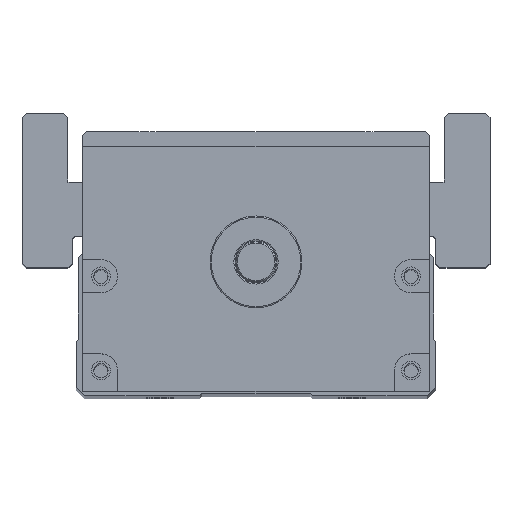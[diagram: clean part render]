
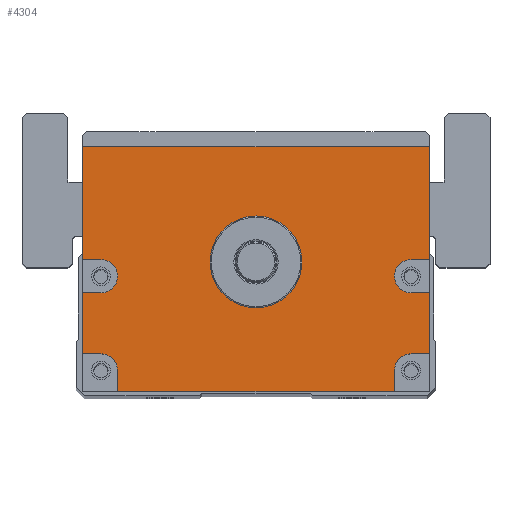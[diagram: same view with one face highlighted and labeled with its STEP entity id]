
A CAD part, top view. The second image highlights one B-rep face of the part: STEP entity #4304.
In plain terms, the highlighted planar face has unit normal (0, 0, 1).
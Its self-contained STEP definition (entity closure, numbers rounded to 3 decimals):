
#4304=ADVANCED_FACE('',(#6755,#6756),#4781,.T.);
#4781=PLANE('',#14732);
#5434=LINE('',#21305,#6228);
#5436=LINE('',#21313,#6230);
#5437=LINE('',#21316,#6231);
#5438=LINE('',#21318,#6232);
#5439=LINE('',#21322,#6233);
#5440=LINE('',#21324,#6234);
#5441=LINE('',#21325,#6235);
#5442=LINE('',#21327,#6236);
#5443=LINE('',#21331,#6237);
#5444=LINE('',#21333,#6238);
#5445=LINE('',#21335,#6239);
#5446=LINE('',#21339,#6240);
#5447=LINE('',#21341,#6241);
#5448=LINE('',#21343,#6242);
#6228=VECTOR('',#17086,1.);
#6230=VECTOR('',#17094,1.);
#6231=VECTOR('',#17095,1.);
#6232=VECTOR('',#17096,1.);
#6233=VECTOR('',#17099,1.);
#6234=VECTOR('',#17100,1.);
#6235=VECTOR('',#17101,1.);
#6236=VECTOR('',#17102,1.);
#6237=VECTOR('',#17105,1.);
#6238=VECTOR('',#17106,1.);
#6239=VECTOR('',#17107,1.);
#6240=VECTOR('',#17110,1.);
#6241=VECTOR('',#17111,1.);
#6242=VECTOR('',#17112,1.);
#6755=FACE_BOUND('',#7573,.T.);
#6756=FACE_BOUND('',#7574,.T.);
#7573=EDGE_LOOP('',(#9908,#9909,#9910,#9911,#9912,#9913,#9914,#9915,#9916,
#9917,#9918,#9919,#9920,#9921,#9922,#9923,#9924,#9925));
#7574=EDGE_LOOP('',(#9926));
#9908=ORIENTED_EDGE('',*,*,#13053,.F.);
#9909=ORIENTED_EDGE('',*,*,#13054,.T.);
#9910=ORIENTED_EDGE('',*,*,#13055,.F.);
#9911=ORIENTED_EDGE('',*,*,#13056,.F.);
#9912=ORIENTED_EDGE('',*,*,#13057,.F.);
#9913=ORIENTED_EDGE('',*,*,#13058,.T.);
#9914=ORIENTED_EDGE('',*,*,#13049,.T.);
#9915=ORIENTED_EDGE('',*,*,#13059,.T.);
#9916=ORIENTED_EDGE('',*,*,#13060,.F.);
#9917=ORIENTED_EDGE('',*,*,#13061,.F.);
#9918=ORIENTED_EDGE('',*,*,#13062,.F.);
#9919=ORIENTED_EDGE('',*,*,#13063,.T.);
#9920=ORIENTED_EDGE('',*,*,#13064,.F.);
#9921=ORIENTED_EDGE('',*,*,#13065,.F.);
#9922=ORIENTED_EDGE('',*,*,#13066,.F.);
#9923=ORIENTED_EDGE('',*,*,#13067,.T.);
#9924=ORIENTED_EDGE('',*,*,#13068,.F.);
#9925=ORIENTED_EDGE('',*,*,#13069,.F.);
#9926=ORIENTED_EDGE('',*,*,#13035,.T.);
#11659=VERTEX_POINT('',#21276);
#11672=VERTEX_POINT('',#21304);
#11673=VERTEX_POINT('',#21306);
#11676=VERTEX_POINT('',#21314);
#11677=VERTEX_POINT('',#21315);
#11678=VERTEX_POINT('',#21317);
#11679=VERTEX_POINT('',#21319);
#11680=VERTEX_POINT('',#21321);
#11681=VERTEX_POINT('',#21323);
#11682=VERTEX_POINT('',#21326);
#11683=VERTEX_POINT('',#21328);
#11684=VERTEX_POINT('',#21330);
#11685=VERTEX_POINT('',#21332);
#11686=VERTEX_POINT('',#21334);
#11687=VERTEX_POINT('',#21336);
#11688=VERTEX_POINT('',#21338);
#11689=VERTEX_POINT('',#21340);
#11690=VERTEX_POINT('',#21342);
#11691=VERTEX_POINT('',#21344);
#13035=EDGE_CURVE('',#11659,#11659,#13845,.T.);
#13049=EDGE_CURVE('',#11673,#11672,#5434,.T.);
#13053=EDGE_CURVE('',#11676,#11677,#5436,.T.);
#13054=EDGE_CURVE('',#11676,#11678,#5437,.T.);
#13055=EDGE_CURVE('',#11679,#11678,#5438,.T.);
#13056=EDGE_CURVE('',#11680,#11679,#13856,.T.);
#13057=EDGE_CURVE('',#11681,#11680,#5439,.T.);
#13058=EDGE_CURVE('',#11681,#11673,#5440,.T.);
#13059=EDGE_CURVE('',#11672,#11682,#5441,.T.);
#13060=EDGE_CURVE('',#11683,#11682,#5442,.T.);
#13061=EDGE_CURVE('',#11684,#11683,#13857,.T.);
#13062=EDGE_CURVE('',#11685,#11684,#5443,.T.);
#13063=EDGE_CURVE('',#11685,#11686,#5444,.T.);
#13064=EDGE_CURVE('',#11687,#11686,#5445,.T.);
#13065=EDGE_CURVE('',#11688,#11687,#13858,.T.);
#13066=EDGE_CURVE('',#11689,#11688,#5446,.T.);
#13067=EDGE_CURVE('',#11689,#11690,#5447,.T.);
#13068=EDGE_CURVE('',#11691,#11690,#5448,.T.);
#13069=EDGE_CURVE('',#11677,#11691,#13859,.T.);
#13845=CIRCLE('',#14714,11.);
#13856=CIRCLE('',#14728,4.);
#13857=CIRCLE('',#14729,4.);
#13858=CIRCLE('',#14730,4.);
#13859=CIRCLE('',#14731,4.);
#14714=AXIS2_PLACEMENT_3D('',#21275,#17059,#17060);
#14728=AXIS2_PLACEMENT_3D('',#21320,#17097,#17098);
#14729=AXIS2_PLACEMENT_3D('',#21329,#17103,#17104);
#14730=AXIS2_PLACEMENT_3D('',#21337,#17108,#17109);
#14731=AXIS2_PLACEMENT_3D('',#21345,#17113,#17114);
#14732=AXIS2_PLACEMENT_3D('',#21346,#17115,#17116);
#17059=DIRECTION('',(0.,0.,-1.));
#17060=DIRECTION('',(1.,0.,0.));
#17086=DIRECTION('',(-1.,0.,0.));
#17094=DIRECTION('',(-1.,0.,0.));
#17095=DIRECTION('',(0.,1.,0.));
#17096=DIRECTION('',(1.,0.,0.));
#17097=DIRECTION('',(0.,0.,1.));
#17098=DIRECTION('',(1.,0.,0.));
#17099=DIRECTION('',(-1.,0.,0.));
#17100=DIRECTION('',(0.,1.,0.));
#17101=DIRECTION('',(0.,-1.,0.));
#17102=DIRECTION('',(-1.,0.,0.));
#17103=DIRECTION('',(0.,0.,1.));
#17104=DIRECTION('',(1.,0.,0.));
#17105=DIRECTION('',(1.,0.,0.));
#17106=DIRECTION('',(0.,-1.,0.));
#17107=DIRECTION('',(-1.,0.,0.));
#17108=DIRECTION('',(0.,0.,1.));
#17109=DIRECTION('',(1.,0.,0.));
#17110=DIRECTION('',(0.,1.,0.));
#17111=DIRECTION('',(1.,0.,0.));
#17112=DIRECTION('',(0.,-1.,0.));
#17113=DIRECTION('',(0.,0.,1.));
#17114=DIRECTION('',(1.,0.,0.));
#17115=DIRECTION('',(0.,0.,1.));
#17116=DIRECTION('',(1.,0.,0.));
#21275=CARTESIAN_POINT('',(600.,0.,282.5));
#21276=CARTESIAN_POINT('',(611.,0.,282.5));
#21304=CARTESIAN_POINT('',(558.5,27.5,282.5));
#21305=CARTESIAN_POINT('',(641.5,27.5,282.5));
#21306=CARTESIAN_POINT('',(641.5,27.5,282.5));
#21313=CARTESIAN_POINT('',(641.5,-22.,282.5));
#21314=CARTESIAN_POINT('',(641.5,-22.,282.5));
#21315=CARTESIAN_POINT('',(637.115,-22.,282.5));
#21316=CARTESIAN_POINT('',(641.5,-31.,282.5));
#21317=CARTESIAN_POINT('',(641.5,-7.431,282.5));
#21318=CARTESIAN_POINT('',(641.5,-7.431,282.5));
#21319=CARTESIAN_POINT('',(637.115,-7.431,282.5));
#21320=CARTESIAN_POINT('',(637.115,-3.431,282.5));
#21321=CARTESIAN_POINT('',(637.115,0.569,282.5));
#21322=CARTESIAN_POINT('',(641.5,0.569,282.5));
#21323=CARTESIAN_POINT('',(641.5,0.569,282.5));
#21324=CARTESIAN_POINT('',(641.5,-31.,282.5));
#21325=CARTESIAN_POINT('',(558.5,27.5,282.5));
#21326=CARTESIAN_POINT('',(558.5,0.569,282.5));
#21327=CARTESIAN_POINT('',(641.5,0.569,282.5));
#21328=CARTESIAN_POINT('',(562.885,0.569,282.5));
#21329=CARTESIAN_POINT('',(562.885,-3.431,282.5));
#21330=CARTESIAN_POINT('',(562.885,-7.431,282.5));
#21331=CARTESIAN_POINT('',(641.5,-7.431,282.5));
#21332=CARTESIAN_POINT('',(558.5,-7.431,282.5));
#21333=CARTESIAN_POINT('',(558.5,27.5,282.5));
#21334=CARTESIAN_POINT('',(558.5,-22.,282.5));
#21335=CARTESIAN_POINT('',(641.5,-22.,282.5));
#21336=CARTESIAN_POINT('',(562.885,-22.,282.5));
#21337=CARTESIAN_POINT('',(562.885,-26.,282.5));
#21338=CARTESIAN_POINT('',(566.885,-26.,282.5));
#21339=CARTESIAN_POINT('',(566.885,-31.,282.5));
#21340=CARTESIAN_POINT('',(566.885,-31.,282.5));
#21341=CARTESIAN_POINT('',(558.5,-31.,282.5));
#21342=CARTESIAN_POINT('',(633.115,-31.,282.5));
#21343=CARTESIAN_POINT('',(633.115,-31.,282.5));
#21344=CARTESIAN_POINT('',(633.115,-26.,282.5));
#21345=CARTESIAN_POINT('',(637.115,-26.,282.5));
#21346=CARTESIAN_POINT('',(641.5,-31.,282.5));
